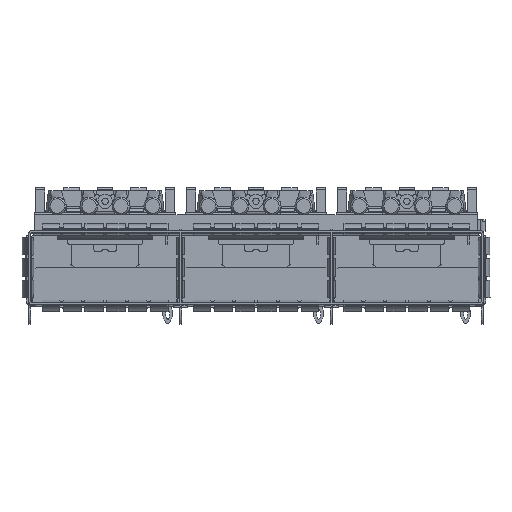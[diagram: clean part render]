
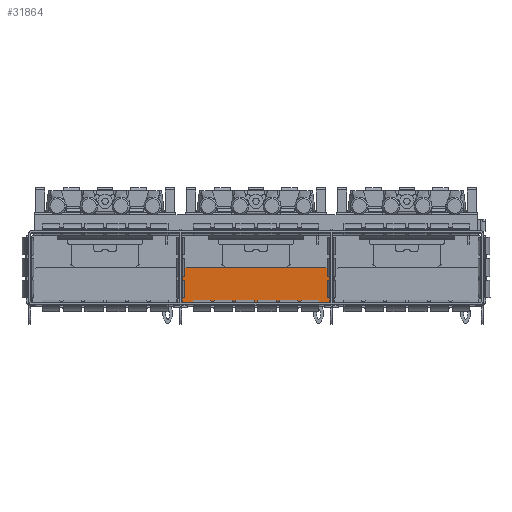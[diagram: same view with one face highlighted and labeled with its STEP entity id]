
A CAD part, top view. The second image highlights one B-rep face of the part: STEP entity #31864.
In plain terms, the highlighted planar face has unit normal (0, 0, 1).
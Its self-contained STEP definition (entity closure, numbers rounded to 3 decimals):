
#31864=ADVANCED_FACE('',(#43505),#36361,.F.);
#36361=PLANE('',#160975);
#43505=FACE_OUTER_BOUND('',#51227,.T.);
#51227=EDGE_LOOP('',(#88836,#88837,#88838,#88839,#88840,#88841));
#88836=ORIENTED_EDGE('',*,*,#120257,.F.);
#88837=ORIENTED_EDGE('',*,*,#120258,.T.);
#88838=ORIENTED_EDGE('',*,*,#118703,.T.);
#88839=ORIENTED_EDGE('',*,*,#120242,.T.);
#88840=ORIENTED_EDGE('',*,*,#120259,.T.);
#88841=ORIENTED_EDGE('',*,*,#120260,.T.);
#100335=VERTEX_POINT('',#244965);
#100336=VERTEX_POINT('',#244967);
#101312=VERTEX_POINT('',#250310);
#101313=VERTEX_POINT('',#250345);
#101314=VERTEX_POINT('',#250346);
#101315=VERTEX_POINT('',#250349);
#118703=EDGE_CURVE('',#100336,#100335,#132184,.T.);
#120242=EDGE_CURVE('',#100335,#101312,#133331,.T.);
#120257=EDGE_CURVE('',#101313,#101314,#133346,.T.);
#120258=EDGE_CURVE('',#101313,#100336,#133347,.T.);
#120259=EDGE_CURVE('',#101312,#101315,#133348,.T.);
#120260=EDGE_CURVE('',#101315,#101314,#133349,.T.);
#132184=LINE('',#244966,#145177);
#133331=LINE('',#250311,#146324);
#133346=LINE('',#250344,#146339);
#133347=LINE('',#250347,#146340);
#133348=LINE('',#250348,#146341);
#133349=LINE('',#250350,#146342);
#145177=VECTOR('',#195281,1.);
#146324=VECTOR('',#197754,1.);
#146339=VECTOR('',#197805,1.);
#146340=VECTOR('',#197806,1.);
#146341=VECTOR('',#197807,1.);
#146342=VECTOR('',#197808,1.);
#160975=AXIS2_PLACEMENT_3D('',#250351,#197809,#197810);
#195281=DIRECTION('',(0.,-1.,0.));
#197754=DIRECTION('',(1.,0.,0.));
#197805=DIRECTION('',(1.,0.,0.));
#197806=DIRECTION('',(-0.707,-0.707,0.));
#197807=DIRECTION('',(0.,1.,0.));
#197808=DIRECTION('',(-0.707,0.707,0.));
#197809=DIRECTION('',(0.,0.,-1.));
#197810=DIRECTION('',(-1.,0.,0.));
#244965=CARTESIAN_POINT('',(0.225,-9.45,50.505));
#244966=CARTESIAN_POINT('',(0.225,-9.45,50.505));
#244967=CARTESIAN_POINT('',(0.225,-5.05,50.505));
#250310=CARTESIAN_POINT('',(18.775,-9.45,50.505));
#250311=CARTESIAN_POINT('',(0.225,-9.45,50.505));
#250344=CARTESIAN_POINT('',(0.225,-4.55,50.505));
#250345=CARTESIAN_POINT('',(0.725,-4.55,50.505));
#250346=CARTESIAN_POINT('',(18.275,-4.55,50.505));
#250347=CARTESIAN_POINT('',(0.725,-4.55,50.505));
#250348=CARTESIAN_POINT('',(18.775,-9.45,50.505));
#250349=CARTESIAN_POINT('',(18.775,-5.05,50.505));
#250350=CARTESIAN_POINT('',(18.275,-4.55,50.505));
#250351=CARTESIAN_POINT('',(0.225,-3.5,50.505));
